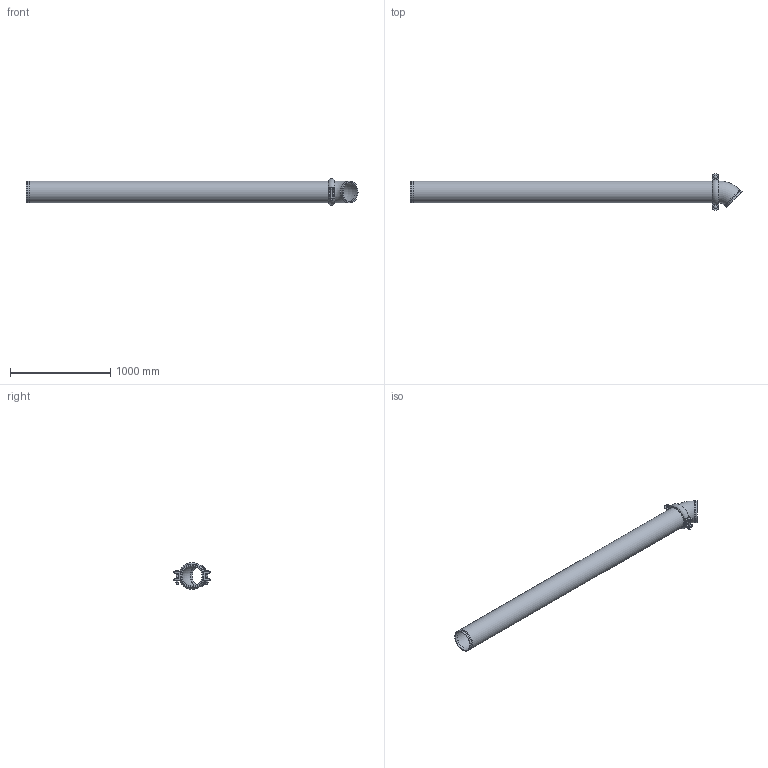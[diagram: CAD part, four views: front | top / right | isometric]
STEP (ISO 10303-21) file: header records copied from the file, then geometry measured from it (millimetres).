
FILE_DESCRIPTION(/* description */ ('VIC LONG RUN FITTING No R14 (OGS)','CAx-IF Rec.Pracs.---Representation and Presentation of Product Manufacturing Information (PMI)---4.0---2014-10-13'),/* implementation_level */ '2;1');
FILE_NAME(/* name */ 'C:\Users\Vjadhav\AppData\Roaming\Autodesk\ApplicationPlugins\Back Up\Victaulic_IPS_Long Run Fittings_No R14 (OGS)\Victaulic_IPS_Long Run Fittings_No R14 (OGS)_8 (200).stp',/* time_stamp */ '2020-10-13T18:28:54+06:00',/* author */ ('Vjadhav'),/* organization */ ('Victaulic'),/* preprocessor_version */ 'ST-DEVELOPER v17.2',/* originating_system */ 'Autodesk Inventor 2019',/* authorisation */ '');
FILE_SCHEMA (('AP242_MANAGED_MODEL_BASED_3D_ENGINEERING_MIM_LF { 1 0 10303 442 1 1 4 }'));
Length unit declared in the file: inch
Products named in the file (4): R14-08.0; 011-08.0; 107N-08.0; Pipe_R13-08.0
Assembly tree (3 placements, depth 2):
  R14-08.0
    011-08.0
    107N-08.0
    Pipe_R13-08.0
Bounding box: 3315.32 x 361.95 x 266.7 mm (x, y, z)
Volume: 18875609.2 mm3; surface area: 4528191.5 mm2
Topology: 3 solids, 3 shells, 149 faces, 387 edges, 260 vertices
Faces by surface type: plane 62, cylinder 57, bspline 16, torus 8, cone 4, sphere 2
Full cylindrical faces by diameter (mm): 19.05 x4, 32.537 x2, 202.717 x3, 206.375 x1, 214.401 x4, 219.075 x7
Entity records: 5573 total; most frequent: CARTESIAN_POINT 1492, DIRECTION 825, ORIENTED_EDGE 774, EDGE_CURVE 387, AXIS2_PLACEMENT_3D 326, VERTEX_POINT 260, EDGE_LOOP 175, LINE 173
